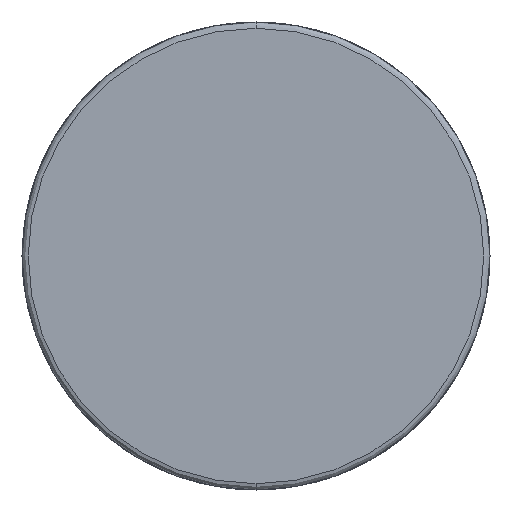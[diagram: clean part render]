
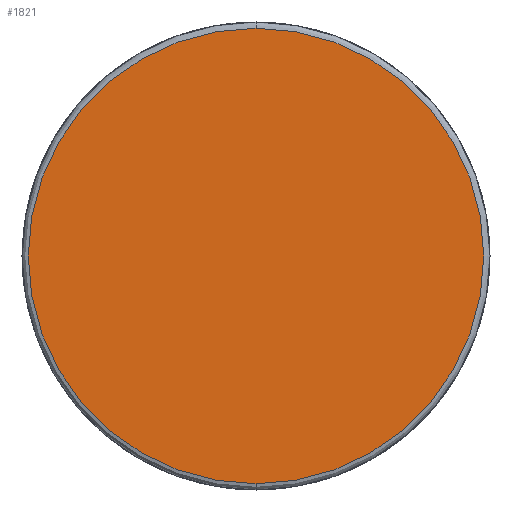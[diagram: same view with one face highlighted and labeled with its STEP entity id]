
A CAD part, front view. The second image highlights one B-rep face of the part: STEP entity #1821.
In plain terms, the highlighted planar face has unit normal (0, -1, 0).
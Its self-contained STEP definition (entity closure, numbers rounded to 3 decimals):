
#22 = DIRECTION ( 'NONE',  ( 0., 0., 1. ) ) ;
#498 = CARTESIAN_POINT ( 'NONE',  ( 0., 0., 0. ) ) ;
#1821 = ADVANCED_FACE ( 'NONE', ( #5620 ), #2469, .F. ) ;
#2469 = PLANE ( 'NONE',  #7475 ) ;
#2733 = CARTESIAN_POINT ( 'NONE',  ( 0., 0., 0. ) ) ;
#4401 = DIRECTION ( 'NONE',  ( 0., 1., 0. ) ) ;
#4664 = DIRECTION ( 'NONE',  ( 0., 0., 1. ) ) ;
#5620 = FACE_OUTER_BOUND ( 'NONE', #23151, .T. ) ;
#7475 = AXIS2_PLACEMENT_3D ( 'NONE', #498, #4401, #17726 ) ;
#7806 = EDGE_CURVE ( 'NONE', #9252, #16311, #9682, .T. ) ;
#8027 = CARTESIAN_POINT ( 'NONE',  ( 0., 0., -14.6 ) ) ;
#9252 = VERTEX_POINT ( 'NONE', #24554 ) ;
#9682 = CIRCLE ( 'NONE', #21075, 14.6 ) ;
#11416 = DIRECTION ( 'NONE',  ( 0., -1., 0. ) ) ;
#12083 = ORIENTED_EDGE ( 'NONE', *, *, #17773, .T. ) ;
#16067 = DIRECTION ( 'NONE',  ( 0., -1., 0. ) ) ;
#16311 = VERTEX_POINT ( 'NONE', #8027 ) ;
#16545 = AXIS2_PLACEMENT_3D ( 'NONE', #2733, #16067, #4664 ) ;
#17726 = DIRECTION ( 'NONE',  ( 0., 0., 1. ) ) ;
#17773 = EDGE_CURVE ( 'NONE', #16311, #9252, #22475, .T. ) ;
#21075 = AXIS2_PLACEMENT_3D ( 'NONE', #22797, #11416, #22 ) ;
#22475 = CIRCLE ( 'NONE', #16545, 14.6 ) ;
#22538 = ORIENTED_EDGE ( 'NONE', *, *, #7806, .T. ) ;
#22797 = CARTESIAN_POINT ( 'NONE',  ( 0., 0., 0. ) ) ;
#23151 = EDGE_LOOP ( 'NONE', ( #22538, #12083 ) ) ;
#24554 = CARTESIAN_POINT ( 'NONE',  ( 0., 0., 14.6 ) ) ;
